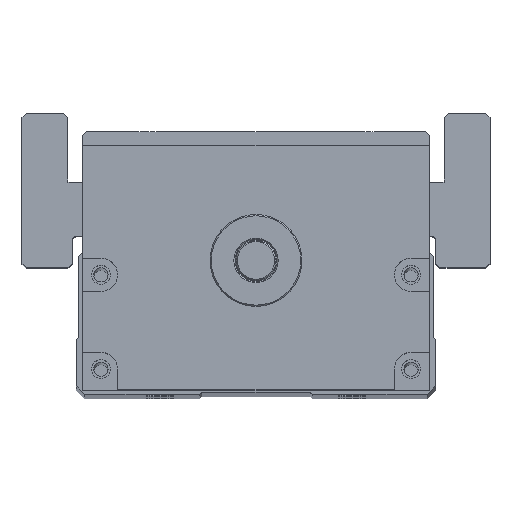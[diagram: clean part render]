
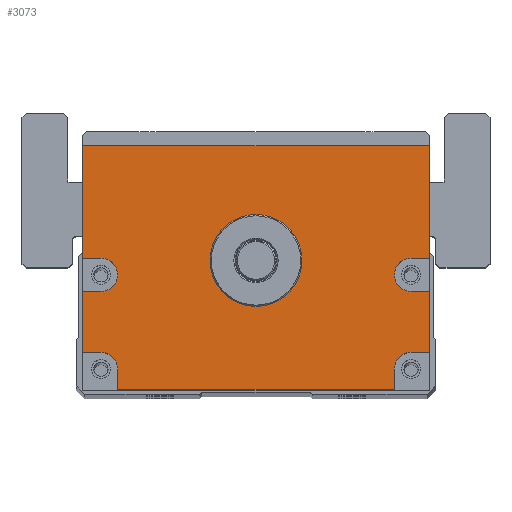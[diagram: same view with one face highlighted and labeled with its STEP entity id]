
A CAD part, top view. The second image highlights one B-rep face of the part: STEP entity #3073.
In plain terms, the highlighted planar face has unit normal (0, 0, 1).
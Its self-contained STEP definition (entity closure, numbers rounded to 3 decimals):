
#667=LINE('',#25493,#1466);
#669=LINE('',#25501,#1468);
#670=LINE('',#25504,#1469);
#671=LINE('',#25506,#1470);
#672=LINE('',#25510,#1471);
#673=LINE('',#25512,#1472);
#674=LINE('',#25513,#1473);
#675=LINE('',#25515,#1474);
#676=LINE('',#25519,#1475);
#677=LINE('',#25521,#1476);
#678=LINE('',#25523,#1477);
#679=LINE('',#25527,#1478);
#680=LINE('',#25529,#1479);
#681=LINE('',#25531,#1480);
#1466=VECTOR('',#13659,1.);
#1468=VECTOR('',#13667,1.);
#1469=VECTOR('',#13668,1.);
#1470=VECTOR('',#13669,1.);
#1471=VECTOR('',#13672,1.);
#1472=VECTOR('',#13673,1.);
#1473=VECTOR('',#13674,1.);
#1474=VECTOR('',#13675,1.);
#1475=VECTOR('',#13678,1.);
#1476=VECTOR('',#13679,1.);
#1477=VECTOR('',#13680,1.);
#1478=VECTOR('',#13683,1.);
#1479=VECTOR('',#13684,1.);
#1480=VECTOR('',#13685,1.);
#3073=ADVANCED_FACE('',(#4086,#4087),#3639,.T.);
#3639=PLANE('',#12033);
#4086=FACE_BOUND('',#4739,.T.);
#4087=FACE_BOUND('',#4740,.T.);
#4739=EDGE_LOOP('',(#6347,#6348,#6349,#6350,#6351,#6352,#6353,#6354,#6355,
#6356,#6357,#6358,#6359,#6360,#6361,#6362,#6363,#6364));
#4740=EDGE_LOOP('',(#6365));
#6347=ORIENTED_EDGE('',*,*,#10136,.F.);
#6348=ORIENTED_EDGE('',*,*,#10137,.T.);
#6349=ORIENTED_EDGE('',*,*,#10138,.F.);
#6350=ORIENTED_EDGE('',*,*,#10139,.F.);
#6351=ORIENTED_EDGE('',*,*,#10140,.F.);
#6352=ORIENTED_EDGE('',*,*,#10141,.T.);
#6353=ORIENTED_EDGE('',*,*,#10132,.T.);
#6354=ORIENTED_EDGE('',*,*,#10142,.T.);
#6355=ORIENTED_EDGE('',*,*,#10143,.F.);
#6356=ORIENTED_EDGE('',*,*,#10144,.F.);
#6357=ORIENTED_EDGE('',*,*,#10145,.F.);
#6358=ORIENTED_EDGE('',*,*,#10146,.T.);
#6359=ORIENTED_EDGE('',*,*,#10147,.F.);
#6360=ORIENTED_EDGE('',*,*,#10148,.F.);
#6361=ORIENTED_EDGE('',*,*,#10149,.F.);
#6362=ORIENTED_EDGE('',*,*,#10150,.T.);
#6363=ORIENTED_EDGE('',*,*,#10151,.F.);
#6364=ORIENTED_EDGE('',*,*,#10152,.F.);
#6365=ORIENTED_EDGE('',*,*,#10118,.T.);
#8875=VERTEX_POINT('',#25464);
#8888=VERTEX_POINT('',#25492);
#8889=VERTEX_POINT('',#25494);
#8892=VERTEX_POINT('',#25502);
#8893=VERTEX_POINT('',#25503);
#8894=VERTEX_POINT('',#25505);
#8895=VERTEX_POINT('',#25507);
#8896=VERTEX_POINT('',#25509);
#8897=VERTEX_POINT('',#25511);
#8898=VERTEX_POINT('',#25514);
#8899=VERTEX_POINT('',#25516);
#8900=VERTEX_POINT('',#25518);
#8901=VERTEX_POINT('',#25520);
#8902=VERTEX_POINT('',#25522);
#8903=VERTEX_POINT('',#25524);
#8904=VERTEX_POINT('',#25526);
#8905=VERTEX_POINT('',#25528);
#8906=VERTEX_POINT('',#25530);
#8907=VERTEX_POINT('',#25532);
#10118=EDGE_CURVE('',#8875,#8875,#11372,.T.);
#10132=EDGE_CURVE('',#8889,#8888,#667,.T.);
#10136=EDGE_CURVE('',#8892,#8893,#669,.T.);
#10137=EDGE_CURVE('',#8892,#8894,#670,.T.);
#10138=EDGE_CURVE('',#8895,#8894,#671,.T.);
#10139=EDGE_CURVE('',#8896,#8895,#11383,.T.);
#10140=EDGE_CURVE('',#8897,#8896,#672,.T.);
#10141=EDGE_CURVE('',#8897,#8889,#673,.T.);
#10142=EDGE_CURVE('',#8888,#8898,#674,.T.);
#10143=EDGE_CURVE('',#8899,#8898,#675,.T.);
#10144=EDGE_CURVE('',#8900,#8899,#11384,.T.);
#10145=EDGE_CURVE('',#8901,#8900,#676,.T.);
#10146=EDGE_CURVE('',#8901,#8902,#677,.T.);
#10147=EDGE_CURVE('',#8903,#8902,#678,.T.);
#10148=EDGE_CURVE('',#8904,#8903,#11385,.T.);
#10149=EDGE_CURVE('',#8905,#8904,#679,.T.);
#10150=EDGE_CURVE('',#8905,#8906,#680,.T.);
#10151=EDGE_CURVE('',#8907,#8906,#681,.T.);
#10152=EDGE_CURVE('',#8893,#8907,#11386,.T.);
#11372=CIRCLE('',#12015,11.);
#11383=CIRCLE('',#12029,4.);
#11384=CIRCLE('',#12030,4.);
#11385=CIRCLE('',#12031,4.);
#11386=CIRCLE('',#12032,4.);
#12015=AXIS2_PLACEMENT_3D('',#25463,#13632,#13633);
#12029=AXIS2_PLACEMENT_3D('',#25508,#13670,#13671);
#12030=AXIS2_PLACEMENT_3D('',#25517,#13676,#13677);
#12031=AXIS2_PLACEMENT_3D('',#25525,#13681,#13682);
#12032=AXIS2_PLACEMENT_3D('',#25533,#13686,#13687);
#12033=AXIS2_PLACEMENT_3D('',#25534,#13688,#13689);
#13632=DIRECTION('',(0.,0.,-1.));
#13633=DIRECTION('',(1.,0.,0.));
#13659=DIRECTION('',(-1.,0.,0.));
#13667=DIRECTION('',(-1.,0.,0.));
#13668=DIRECTION('',(0.,1.,0.));
#13669=DIRECTION('',(1.,0.,0.));
#13670=DIRECTION('',(0.,0.,1.));
#13671=DIRECTION('',(1.,0.,0.));
#13672=DIRECTION('',(-1.,0.,0.));
#13673=DIRECTION('',(0.,1.,0.));
#13674=DIRECTION('',(0.,-1.,0.));
#13675=DIRECTION('',(-1.,0.,0.));
#13676=DIRECTION('',(0.,0.,1.));
#13677=DIRECTION('',(1.,0.,0.));
#13678=DIRECTION('',(1.,0.,0.));
#13679=DIRECTION('',(0.,-1.,0.));
#13680=DIRECTION('',(-1.,0.,0.));
#13681=DIRECTION('',(0.,0.,1.));
#13682=DIRECTION('',(1.,0.,0.));
#13683=DIRECTION('',(0.,1.,0.));
#13684=DIRECTION('',(1.,0.,0.));
#13685=DIRECTION('',(0.,-1.,0.));
#13686=DIRECTION('',(0.,0.,1.));
#13687=DIRECTION('',(1.,0.,0.));
#13688=DIRECTION('',(0.,0.,1.));
#13689=DIRECTION('',(1.,0.,0.));
#25463=CARTESIAN_POINT('',(300.,0.,482.5));
#25464=CARTESIAN_POINT('',(311.,0.,482.5));
#25492=CARTESIAN_POINT('',(258.5,27.5,482.5));
#25493=CARTESIAN_POINT('',(341.5,27.5,482.5));
#25494=CARTESIAN_POINT('',(341.5,27.5,482.5));
#25501=CARTESIAN_POINT('',(341.5,-22.,482.5));
#25502=CARTESIAN_POINT('',(341.5,-22.,482.5));
#25503=CARTESIAN_POINT('',(337.115,-22.,482.5));
#25504=CARTESIAN_POINT('',(341.5,-31.,482.5));
#25505=CARTESIAN_POINT('',(341.5,-7.431,482.5));
#25506=CARTESIAN_POINT('',(341.5,-7.431,482.5));
#25507=CARTESIAN_POINT('',(337.115,-7.431,482.5));
#25508=CARTESIAN_POINT('',(337.115,-3.431,482.5));
#25509=CARTESIAN_POINT('',(337.115,0.569,482.5));
#25510=CARTESIAN_POINT('',(341.5,0.569,482.5));
#25511=CARTESIAN_POINT('',(341.5,0.569,482.5));
#25512=CARTESIAN_POINT('',(341.5,-31.,482.5));
#25513=CARTESIAN_POINT('',(258.5,27.5,482.5));
#25514=CARTESIAN_POINT('',(258.5,0.569,482.5));
#25515=CARTESIAN_POINT('',(341.5,0.569,482.5));
#25516=CARTESIAN_POINT('',(262.885,0.569,482.5));
#25517=CARTESIAN_POINT('',(262.885,-3.431,482.5));
#25518=CARTESIAN_POINT('',(262.885,-7.431,482.5));
#25519=CARTESIAN_POINT('',(341.5,-7.431,482.5));
#25520=CARTESIAN_POINT('',(258.5,-7.431,482.5));
#25521=CARTESIAN_POINT('',(258.5,27.5,482.5));
#25522=CARTESIAN_POINT('',(258.5,-22.,482.5));
#25523=CARTESIAN_POINT('',(341.5,-22.,482.5));
#25524=CARTESIAN_POINT('',(262.885,-22.,482.5));
#25525=CARTESIAN_POINT('',(262.885,-26.,482.5));
#25526=CARTESIAN_POINT('',(266.885,-26.,482.5));
#25527=CARTESIAN_POINT('',(266.885,-31.,482.5));
#25528=CARTESIAN_POINT('',(266.885,-31.,482.5));
#25529=CARTESIAN_POINT('',(258.5,-31.,482.5));
#25530=CARTESIAN_POINT('',(333.115,-31.,482.5));
#25531=CARTESIAN_POINT('',(333.115,-31.,482.5));
#25532=CARTESIAN_POINT('',(333.115,-26.,482.5));
#25533=CARTESIAN_POINT('',(337.115,-26.,482.5));
#25534=CARTESIAN_POINT('',(341.5,-31.,482.5));
